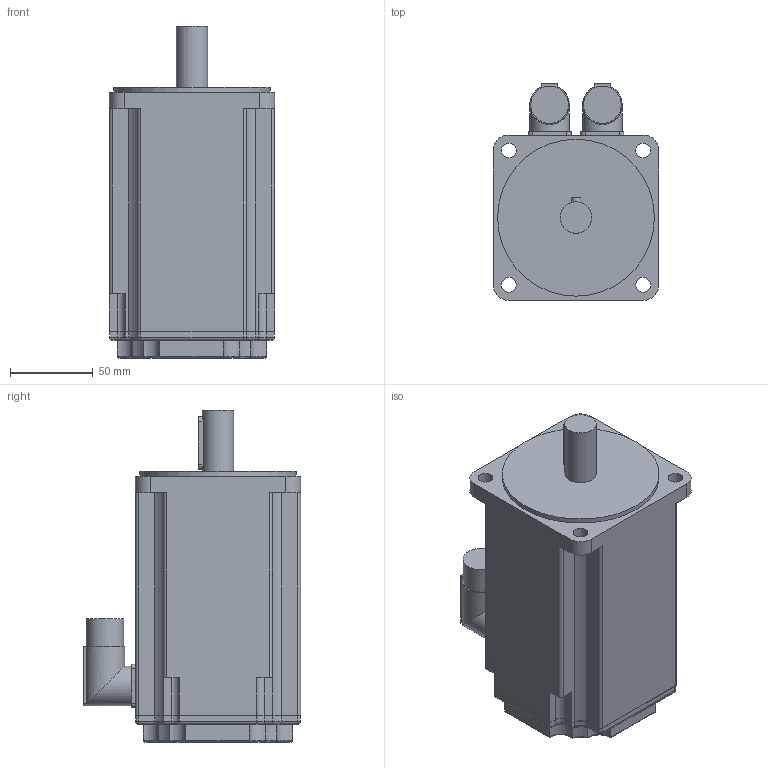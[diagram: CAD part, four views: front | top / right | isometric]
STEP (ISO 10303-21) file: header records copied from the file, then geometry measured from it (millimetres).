
FILE_DESCRIPTION(/* description */ (''),/* implementation_level */ '2;1');
FILE_NAME(/* name */ '\\Lafnas01\disegni\Archivi Lafert\3D\CAD 3D\MODELLI\Assiemi clienti\Serad\Modelli 3D Serad\B63Q\Encoder\Enc Without Brake\B6304Qxx6ARx2033.ipt.stp',/* time_stamp */ '2015-09-07T10:50:58+02:00',/* author */ ('Pastrello Ylenia'),/* organization */ (''),/* preprocessor_version */ 'ST-DEVELOPER v15.6',/* originating_system */ 'Autodesk Inventor 2015',/* authorisation */ '');
FILE_SCHEMA (('AUTOMOTIVE_DESIGN { 1 0 10303 214 3 1 1 }'));
Length unit declared in the file: millimetre
Products named in the file (1): B6304Qxx6ARx2033
Bounding box: 100 x 131.5 x 201 mm (x, y, z)
Volume: 1490210.9 mm3; surface area: 93130.2 mm2
Topology: 1 solids, 1 shells, 195 faces, 500 edges, 318 vertices
Faces by surface type: cylinder 90, plane 81, torus 20, sphere 4
Full cylindrical faces by diameter (mm): 9 x4, 19 x1, 22.7 x2, 24 x2, 95 x1
Entity records: 6152 total; most frequent: CARTESIAN_POINT 1342, DIRECTION 1030, ORIENTED_EDGE 972, EDGE_CURVE 486, AXIS2_PLACEMENT_3D 374, VERTEX_POINT 314, LINE 282, VECTOR 282
